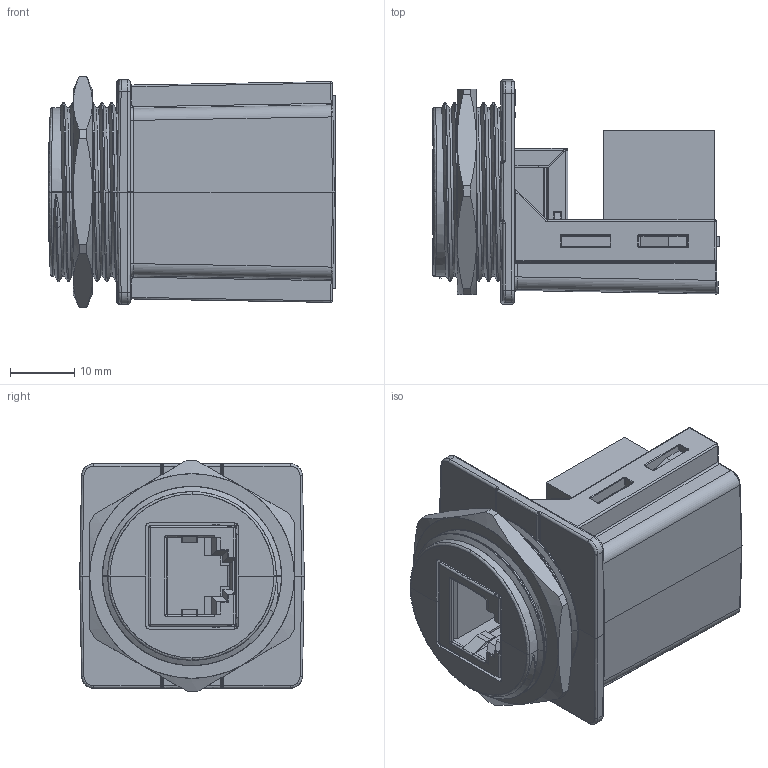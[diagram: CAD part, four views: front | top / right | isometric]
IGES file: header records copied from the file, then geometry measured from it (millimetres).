
Start section: SolidWorks IGES file using analytic representation for surfaces
Global section: file name: W:\end-user\products\mjjs\mjjsgq10p10c\mjjsgq10p10c-b\3dmodel\render\mjjsgq10p10c-b-u_rev_a.igs; native system: SolidWorks 2018; preprocessor: SolidWorks 2018; author: leviroy; date: 231103.154102; units: inch
Bounding box: 44.6 x 34.92 x 35.89 mm (x, y, z)
Surface area: 20800.2 mm2 (no closed solid volume)
Topology: 0 solids, 0 shells, 3178 faces, 23729 edges, 23689 vertices
Faces by surface type: bspline 2589, revolution 589
